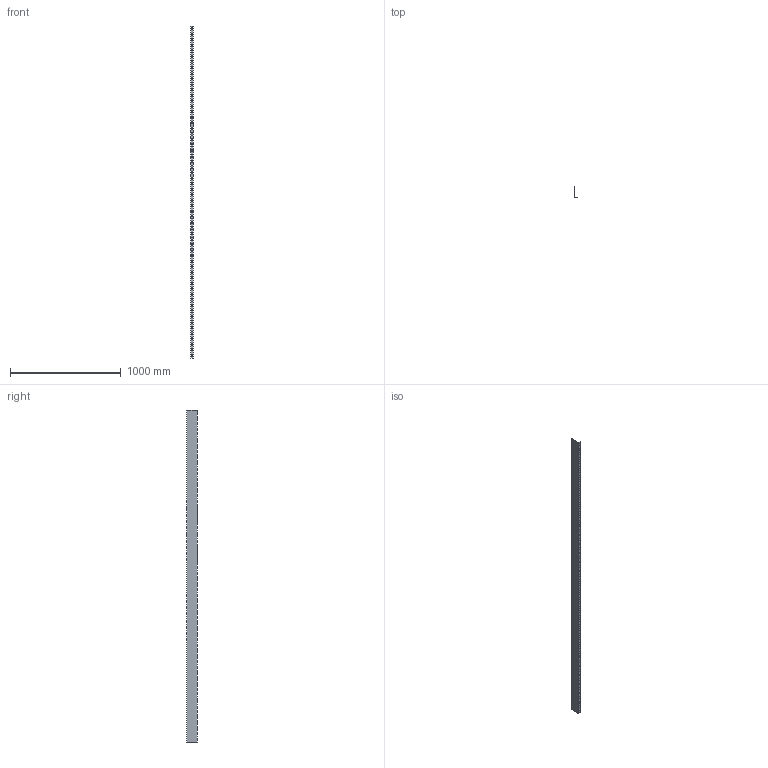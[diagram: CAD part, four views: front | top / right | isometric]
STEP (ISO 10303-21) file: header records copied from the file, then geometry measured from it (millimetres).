
FILE_DESCRIPTION (( 'STEP AP214' ), '1' );
FILE_NAME ('SE_9808.step', '2025-07-16T09:29:03', ( '' ), ( '' ), 'SwSTEP 2.0', 'SolidWorks 2023', '' );
FILE_SCHEMA (( 'AUTOMOTIVE_DESIGN' ));
Length unit declared in the file: millimetre
Products named in the file (1): SE_9808
Bounding box: 23 x 98 x 3000 mm (x, y, z)
Volume: 211680 mm3; surface area: 711288.5 mm2
Topology: 1 solids, 1 shells, 248 faces, 738 edges, 492 vertices
Faces by surface type: plane 248
Entity records: 8405 total; most frequent: CARTESIAN_POINT 1479, ORIENTED_EDGE 1476, DIRECTION 1236, LINE 738, VECTOR 738, EDGE_CURVE 738, VERTEX_POINT 492, EDGE_LOOP 368
